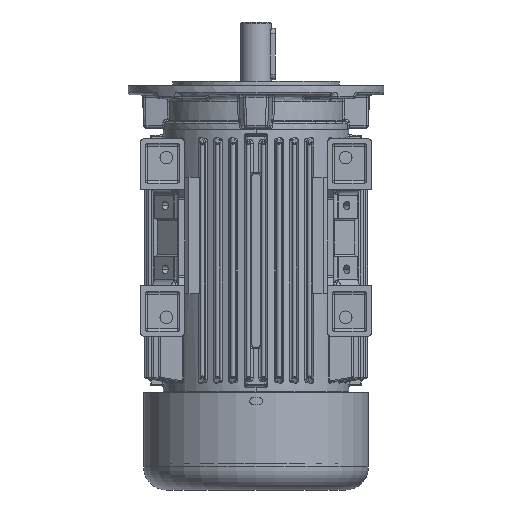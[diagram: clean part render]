
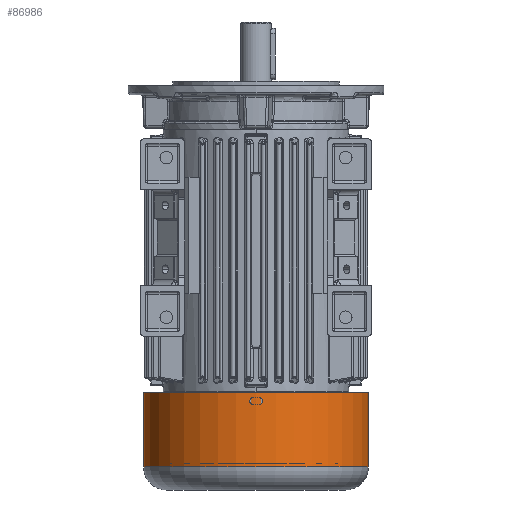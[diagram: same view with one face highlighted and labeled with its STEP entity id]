
A CAD part, front view. The second image highlights one B-rep face of the part: STEP entity #86986.
In plain terms, the highlighted cylindrical face has radius 88 mm (diameter 176 mm), a partial arc.
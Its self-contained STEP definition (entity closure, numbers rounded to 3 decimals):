
#5526 = CARTESIAN_POINT ( 'NONE',  ( 0., 0., -208.308 ) ) ;
#9484 = DIRECTION ( 'NONE',  ( 0., 0., -1. ) ) ;
#10845 = VERTEX_POINT ( 'NONE', #87920 ) ;
#12732 = VECTOR ( 'NONE', #128618, 1000. ) ;
#16805 = DIRECTION ( 'NONE',  ( -1., 0., 0. ) ) ;
#24100 = AXIS2_PLACEMENT_3D ( 'NONE', #88737, #77521, #77990 ) ;
#24408 = DIRECTION ( 'NONE',  ( 0., 0., -1. ) ) ;
#25498 = CARTESIAN_POINT ( 'NONE',  ( 88., 0., -161.5 ) ) ;
#26853 = VERTEX_POINT ( 'NONE', #25498 ) ;
#37274 = EDGE_CURVE ( 'NONE', #26853, #41713, #91870, .T. ) ;
#37727 = EDGE_CURVE ( 'NONE', #102019, #41713, #90112, .T. ) ;
#38180 = AXIS2_PLACEMENT_3D ( 'NONE', #5526, #59375, #16805 ) ;
#41301 = CARTESIAN_POINT ( 'NONE',  ( -88., 0., -208.308 ) ) ;
#41713 = VERTEX_POINT ( 'NONE', #49871 ) ;
#44935 = CARTESIAN_POINT ( 'NONE',  ( 0., 0., -103.5 ) ) ;
#49871 = CARTESIAN_POINT ( 'NONE',  ( -88., 0., -161.5 ) ) ;
#55297 = DIRECTION ( 'NONE',  ( -1., 0., 0. ) ) ;
#59375 = DIRECTION ( 'NONE',  ( 0., 0., -1. ) ) ;
#65046 = VECTOR ( 'NONE', #9484, 1000. ) ;
#74302 = ORIENTED_EDGE ( 'NONE', *, *, #111586, .F. ) ;
#77521 = DIRECTION ( 'NONE',  ( 0., 0., -1. ) ) ;
#77990 = DIRECTION ( 'NONE',  ( -1., 0., 0. ) ) ;
#78551 = AXIS2_PLACEMENT_3D ( 'NONE', #44935, #24408, #55297 ) ;
#86986 = ADVANCED_FACE ( 'NONE', ( #123249 ), #94705, .T. ) ;
#87920 = CARTESIAN_POINT ( 'NONE',  ( 88., 0., -103.5 ) ) ;
#87994 = EDGE_LOOP ( 'NONE', ( #74302, #107222, #100740, #93340 ) ) ;
#88737 = CARTESIAN_POINT ( 'NONE',  ( 0., 0., -161.5 ) ) ;
#90112 = LINE ( 'NONE', #41301, #65046 ) ;
#91870 = CIRCLE ( 'NONE', #24100, 88. ) ;
#93340 = ORIENTED_EDGE ( 'NONE', *, *, #37274, .F. ) ;
#93770 = CIRCLE ( 'NONE', #78551, 88. ) ;
#94705 = CYLINDRICAL_SURFACE ( 'NONE', #38180, 88. ) ;
#100740 = ORIENTED_EDGE ( 'NONE', *, *, #37727, .T. ) ;
#102019 = VERTEX_POINT ( 'NONE', #122385 ) ;
#105742 = CARTESIAN_POINT ( 'NONE',  ( 88., 0., -208.308 ) ) ;
#107222 = ORIENTED_EDGE ( 'NONE', *, *, #114733, .T. ) ;
#111586 = EDGE_CURVE ( 'NONE', #10845, #26853, #116653, .T. ) ;
#114733 = EDGE_CURVE ( 'NONE', #10845, #102019, #93770, .T. ) ;
#116653 = LINE ( 'NONE', #105742, #12732 ) ;
#122385 = CARTESIAN_POINT ( 'NONE',  ( -88., 0., -103.5 ) ) ;
#123249 = FACE_OUTER_BOUND ( 'NONE', #87994, .T. ) ;
#128618 = DIRECTION ( 'NONE',  ( 0., 0., -1. ) ) ;
